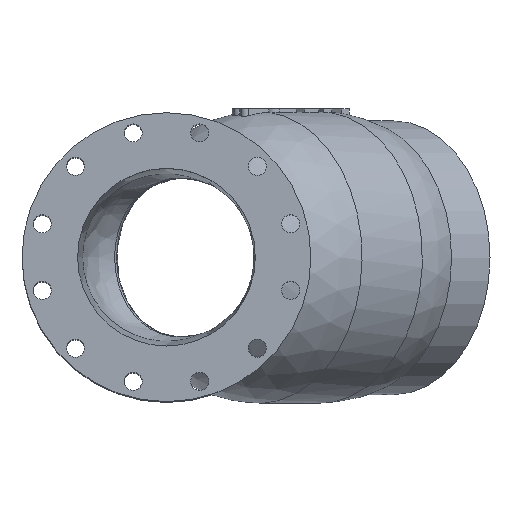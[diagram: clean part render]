
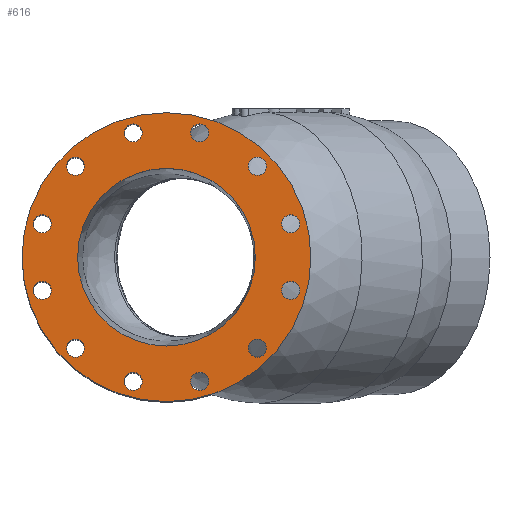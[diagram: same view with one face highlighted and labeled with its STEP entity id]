
A CAD part, top view. The second image highlights one B-rep face of the part: STEP entity #616.
In plain terms, the highlighted planar face has unit normal (0, 0, 1).
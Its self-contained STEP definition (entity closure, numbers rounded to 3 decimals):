
#616 = ADVANCED_FACE( '', ( #1436, #1437, #1438, #1439, #1440, #1441, #1442, #1443, #1444, #1445, #1446, #1447, #1448, #1449 ), #1450, .T. );
#1436 = FACE_BOUND( '', #13336, .T. );
#1437 = FACE_BOUND( '', #13337, .T. );
#1438 = FACE_BOUND( '', #13338, .T. );
#1439 = FACE_BOUND( '', #13339, .T. );
#1440 = FACE_BOUND( '', #13340, .T. );
#1441 = FACE_BOUND( '', #13341, .T. );
#1442 = FACE_BOUND( '', #13342, .T. );
#1443 = FACE_BOUND( '', #13343, .T. );
#1444 = FACE_OUTER_BOUND( '', #13344, .T. );
#1445 = FACE_BOUND( '', #13345, .T. );
#1446 = FACE_BOUND( '', #13346, .T. );
#1447 = FACE_BOUND( '', #13347, .T. );
#1448 = FACE_BOUND( '', #13348, .T. );
#1449 = FACE_BOUND( '', #13349, .T. );
#1450 = PLANE( '', #13350 );
#13336 = EDGE_LOOP( '', ( #25035 ) );
#13337 = EDGE_LOOP( '', ( #25036 ) );
#13338 = EDGE_LOOP( '', ( #25037 ) );
#13339 = EDGE_LOOP( '', ( #25038 ) );
#13340 = EDGE_LOOP( '', ( #25039 ) );
#13341 = EDGE_LOOP( '', ( #25040 ) );
#13342 = EDGE_LOOP( '', ( #25041 ) );
#13343 = EDGE_LOOP( '', ( #25042 ) );
#13344 = EDGE_LOOP( '', ( #25043 ) );
#13345 = EDGE_LOOP( '', ( #25044 ) );
#13346 = EDGE_LOOP( '', ( #25045 ) );
#13347 = EDGE_LOOP( '', ( #25046 ) );
#13348 = EDGE_LOOP( '', ( #25047 ) );
#13349 = EDGE_LOOP( '', ( #25048 ) );
#13350 = AXIS2_PLACEMENT_3D( '', #25049, #25050, #25051 );
#25035 = ORIENTED_EDGE( '', *, *, #27278, .F. );
#25036 = ORIENTED_EDGE( '', *, *, #27279, .F. );
#25037 = ORIENTED_EDGE( '', *, *, #27196, .F. );
#25038 = ORIENTED_EDGE( '', *, *, #27211, .F. );
#25039 = ORIENTED_EDGE( '', *, *, #27280, .T. );
#25040 = ORIENTED_EDGE( '', *, *, #27090, .F. );
#25041 = ORIENTED_EDGE( '', *, *, #27281, .F. );
#25042 = ORIENTED_EDGE( '', *, *, #27221, .T. );
#25043 = ORIENTED_EDGE( '', *, *, #27282, .F. );
#25044 = ORIENTED_EDGE( '', *, *, #26960, .F. );
#25045 = ORIENTED_EDGE( '', *, *, #27283, .F. );
#25046 = ORIENTED_EDGE( '', *, *, #27284, .F. );
#25047 = ORIENTED_EDGE( '', *, *, #26772, .F. );
#25048 = ORIENTED_EDGE( '', *, *, #26649, .T. );
#25049 = CARTESIAN_POINT( '', ( -203.2, 0., 272.716 ) );
#25050 = DIRECTION( '', ( 0., 0., 1. ) );
#25051 = DIRECTION( '', ( 1., 0., 0. ) );
#26649 = EDGE_CURVE( '', #27621, #27621, #27622, .T. );
#26772 = EDGE_CURVE( '', #27837, #27837, #27838, .T. );
#26960 = EDGE_CURVE( '', #28148, #28148, #28149, .T. );
#27090 = EDGE_CURVE( '', #28361, #28361, #28362, .T. );
#27196 = EDGE_CURVE( '', #28511, #28511, #28512, .T. );
#27211 = EDGE_CURVE( '', #28532, #28532, #28533, .T. );
#27221 = EDGE_CURVE( '', #28548, #28548, #28549, .T. );
#27278 = EDGE_CURVE( '', #28622, #28622, #28623, .T. );
#27279 = EDGE_CURVE( '', #28624, #28624, #28625, .T. );
#27280 = EDGE_CURVE( '', #28626, #28626, #28627, .T. );
#27281 = EDGE_CURVE( '', #28628, #28628, #28629, .T. );
#27282 = EDGE_CURVE( '', #28630, #28630, #28631, .T. );
#27283 = EDGE_CURVE( '', #28632, #28632, #28633, .T. );
#27284 = EDGE_CURVE( '', #28634, #28634, #28635, .T. );
#27621 = VERTEX_POINT( '', #29046 );
#27622 = CIRCLE( '', #29047, 12.7 );
#27837 = VERTEX_POINT( '', #30729 );
#27838 = CIRCLE( '', #30730, 12.7 );
#28148 = VERTEX_POINT( '', #34794 );
#28149 = CIRCLE( '', #34795, 12.7 );
#28361 = VERTEX_POINT( '', #36131 );
#28362 = CIRCLE( '', #36132, 12.7 );
#28511 = VERTEX_POINT( '', #36934 );
#28512 = CIRCLE( '', #36935, 12.7 );
#28532 = VERTEX_POINT( '', #37053 );
#28533 = CIRCLE( '', #37054, 12.7 );
#28548 = VERTEX_POINT( '', #37100 );
#28549 = CIRCLE( '', #37101, 125. );
#28622 = VERTEX_POINT( '', #37524 );
#28623 = CIRCLE( '', #37525, 12.7 );
#28624 = VERTEX_POINT( '', #37526 );
#28625 = CIRCLE( '', #37527, 12.7 );
#28626 = VERTEX_POINT( '', #37528 );
#28627 = CIRCLE( '', #37529, 12.7 );
#28628 = VERTEX_POINT( '', #37530 );
#28629 = CIRCLE( '', #37531, 12.7 );
#28630 = VERTEX_POINT( '', #37532 );
#28631 = CIRCLE( '', #37533, 203.2 );
#28632 = VERTEX_POINT( '', #37534 );
#28633 = CIRCLE( '', #37535, 12.7 );
#28634 = VERTEX_POINT( '', #37536 );
#28635 = CIRCLE( '', #37537, 12.7 );
#29046 = CARTESIAN_POINT( '', ( 59.533, -174.784, 272.716 ) );
#29047 = AXIS2_PLACEMENT_3D( '', #41193, #41194, #41195 );
#30729 = CARTESIAN_POINT( '', ( 140.651, -127.951, 272.716 ) );
#30730 = AXIS2_PLACEMENT_3D( '', #41337, #41338, #41339 );
#34794 = CARTESIAN_POINT( '', ( 59.533, 174.784, 272.716 ) );
#34795 = AXIS2_PLACEMENT_3D( '', #41536, #41537, #41538 );
#36131 = CARTESIAN_POINT( '', ( -34.133, 174.784, 272.716 ) );
#36132 = AXIS2_PLACEMENT_3D( '', #41695, #41696, #41697 );
#36934 = CARTESIAN_POINT( '', ( -115.251, -127.951, 272.716 ) );
#36935 = AXIS2_PLACEMENT_3D( '', #41827, #41828, #41829 );
#37053 = CARTESIAN_POINT( '', ( -34.133, -174.784, 272.716 ) );
#37054 = AXIS2_PLACEMENT_3D( '', #41843, #41844, #41845 );
#37100 = CARTESIAN_POINT( '', ( -125., 0., 272.716 ) );
#37101 = AXIS2_PLACEMENT_3D( '', #41856, #41857, #41858 );
#37524 = CARTESIAN_POINT( '', ( -162.084, -46.833, 272.716 ) );
#37525 = AXIS2_PLACEMENT_3D( '', #41904, #41905, #41906 );
#37526 = CARTESIAN_POINT( '', ( -162.084, 46.833, 272.716 ) );
#37527 = AXIS2_PLACEMENT_3D( '', #41907, #41908, #41909 );
#37528 = CARTESIAN_POINT( '', ( 140.651, 127.951, 272.716 ) );
#37529 = AXIS2_PLACEMENT_3D( '', #41910, #41911, #41912 );
#37530 = CARTESIAN_POINT( '', ( -115.251, 127.951, 272.716 ) );
#37531 = AXIS2_PLACEMENT_3D( '', #41913, #41914, #41915 );
#37532 = CARTESIAN_POINT( '', ( -203.2, 0., 272.716 ) );
#37533 = AXIS2_PLACEMENT_3D( '', #41916, #41917, #41918 );
#37534 = CARTESIAN_POINT( '', ( 187.484, 46.833, 272.716 ) );
#37535 = AXIS2_PLACEMENT_3D( '', #41919, #41920, #41921 );
#37536 = CARTESIAN_POINT( '', ( 187.484, -46.833, 272.716 ) );
#37537 = AXIS2_PLACEMENT_3D( '', #41922, #41923, #41924 );
#41193 = CARTESIAN_POINT( '', ( 46.833, -174.784, 272.716 ) );
#41194 = DIRECTION( '', ( 0., 0., -1. ) );
#41195 = DIRECTION( '', ( 1., 0., 0. ) );
#41337 = CARTESIAN_POINT( '', ( 127.951, -127.951, 272.716 ) );
#41338 = DIRECTION( '', ( 0., 0., 1. ) );
#41339 = DIRECTION( '', ( 1., 0., 0. ) );
#41536 = CARTESIAN_POINT( '', ( 46.833, 174.784, 272.716 ) );
#41537 = DIRECTION( '', ( 0., 0., 1. ) );
#41538 = DIRECTION( '', ( 1., 0., 0. ) );
#41695 = CARTESIAN_POINT( '', ( -46.833, 174.784, 272.716 ) );
#41696 = DIRECTION( '', ( 0., 0., 1. ) );
#41697 = DIRECTION( '', ( 1., 0., 0. ) );
#41827 = CARTESIAN_POINT( '', ( -127.951, -127.951, 272.716 ) );
#41828 = DIRECTION( '', ( 0., 0., 1. ) );
#41829 = DIRECTION( '', ( 1., 0., 0. ) );
#41843 = CARTESIAN_POINT( '', ( -46.833, -174.784, 272.716 ) );
#41844 = DIRECTION( '', ( 0., 0., 1. ) );
#41845 = DIRECTION( '', ( 1., 0., 0. ) );
#41856 = CARTESIAN_POINT( '', ( 0., 0., 272.716 ) );
#41857 = DIRECTION( '', ( 0., 0., -1. ) );
#41858 = DIRECTION( '', ( -1., 0., 0. ) );
#41904 = CARTESIAN_POINT( '', ( -174.784, -46.833, 272.716 ) );
#41905 = DIRECTION( '', ( 0., 0., 1. ) );
#41906 = DIRECTION( '', ( 1., 0., 0. ) );
#41907 = CARTESIAN_POINT( '', ( -174.784, 46.833, 272.716 ) );
#41908 = DIRECTION( '', ( 0., 0., 1. ) );
#41909 = DIRECTION( '', ( 1., 0., 0. ) );
#41910 = CARTESIAN_POINT( '', ( 127.951, 127.951, 272.716 ) );
#41911 = DIRECTION( '', ( 0., 0., -1. ) );
#41912 = DIRECTION( '', ( 1., 0., 0. ) );
#41913 = CARTESIAN_POINT( '', ( -127.951, 127.951, 272.716 ) );
#41914 = DIRECTION( '', ( 0., 0., 1. ) );
#41915 = DIRECTION( '', ( 1., 0., 0. ) );
#41916 = CARTESIAN_POINT( '', ( 0., 0., 272.716 ) );
#41917 = DIRECTION( '', ( 0., 0., -1. ) );
#41918 = DIRECTION( '', ( -1., 0., 0. ) );
#41919 = CARTESIAN_POINT( '', ( 174.784, 46.833, 272.716 ) );
#41920 = DIRECTION( '', ( 0., 0., 1. ) );
#41921 = DIRECTION( '', ( 1., 0., 0. ) );
#41922 = CARTESIAN_POINT( '', ( 174.784, -46.833, 272.716 ) );
#41923 = DIRECTION( '', ( 0., 0., 1. ) );
#41924 = DIRECTION( '', ( 1., 0., 0. ) );
